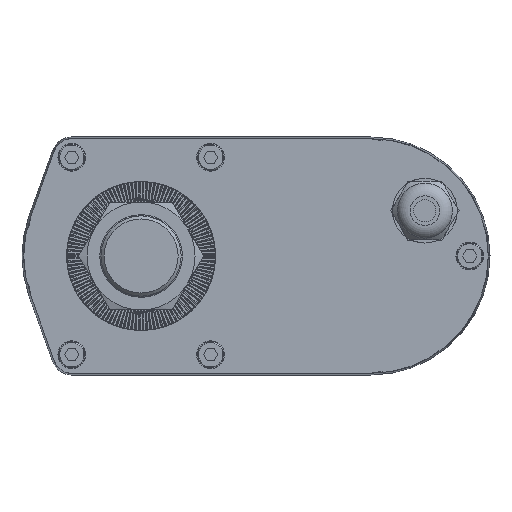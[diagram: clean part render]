
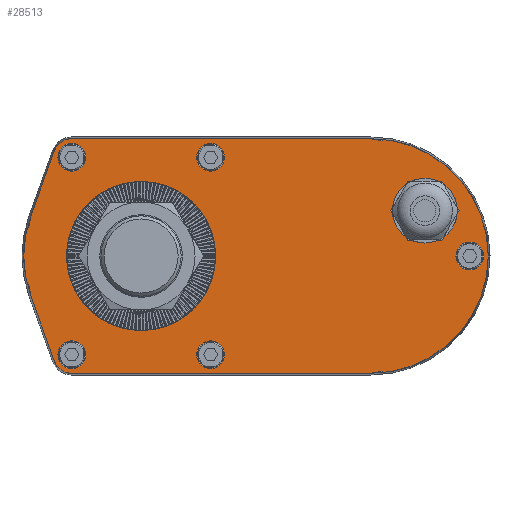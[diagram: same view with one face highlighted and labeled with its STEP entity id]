
A CAD part, left-side view. The second image highlights one B-rep face of the part: STEP entity #28513.
In plain terms, the highlighted planar face has unit normal (-1, 0, 0).
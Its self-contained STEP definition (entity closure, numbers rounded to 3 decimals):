
#829=LINE('',#40664,#2777);
#833=LINE('',#40676,#2781);
#837=LINE('',#40688,#2785);
#841=LINE('',#40700,#2789);
#2777=VECTOR('',#34313,1000.);
#2781=VECTOR('',#34325,1000.);
#2785=VECTOR('',#34337,1000.);
#2789=VECTOR('',#34349,1000.);
#4487=PLANE('',#30559);
#7024=ORIENTED_EDGE('',*,*,#12640,.F.);
#7025=ORIENTED_EDGE('',*,*,#11362,.F.);
#7026=ORIENTED_EDGE('',*,*,#12641,.T.);
#7027=ORIENTED_EDGE('',*,*,#12642,.T.);
#7028=ORIENTED_EDGE('',*,*,#12643,.T.);
#7029=ORIENTED_EDGE('',*,*,#12644,.T.);
#7030=ORIENTED_EDGE('',*,*,#12645,.T.);
#7031=ORIENTED_EDGE('',*,*,#12618,.F.);
#7032=ORIENTED_EDGE('',*,*,#12639,.F.);
#7033=ORIENTED_EDGE('',*,*,#12636,.F.);
#7034=ORIENTED_EDGE('',*,*,#12633,.F.);
#7035=ORIENTED_EDGE('',*,*,#12630,.F.);
#7036=ORIENTED_EDGE('',*,*,#12627,.F.);
#7037=ORIENTED_EDGE('',*,*,#12624,.F.);
#7038=ORIENTED_EDGE('',*,*,#12621,.F.);
#11362=EDGE_CURVE('',#14297,#14297,#16035,.F.);
#12618=EDGE_CURVE('',#15187,#15188,#829,.T.);
#12621=EDGE_CURVE('',#15188,#15190,#16528,.T.);
#12624=EDGE_CURVE('',#15190,#15192,#833,.T.);
#12627=EDGE_CURVE('',#15192,#15194,#16530,.T.);
#12630=EDGE_CURVE('',#15194,#15196,#837,.T.);
#12633=EDGE_CURVE('',#15196,#15198,#16532,.T.);
#12636=EDGE_CURVE('',#15198,#15200,#841,.T.);
#12639=EDGE_CURVE('',#15200,#15187,#16534,.T.);
#12640=EDGE_CURVE('',#15201,#15201,#16535,.F.);
#12641=EDGE_CURVE('',#15202,#15202,#16536,.T.);
#12642=EDGE_CURVE('',#15203,#15203,#16537,.T.);
#12643=EDGE_CURVE('',#15204,#15204,#16538,.T.);
#12644=EDGE_CURVE('',#15205,#15205,#16539,.T.);
#12645=EDGE_CURVE('',#15206,#15206,#16540,.T.);
#14297=VERTEX_POINT('',#38230);
#15187=VERTEX_POINT('',#40663);
#15188=VERTEX_POINT('',#40665);
#15190=VERTEX_POINT('',#40671);
#15192=VERTEX_POINT('',#40677);
#15194=VERTEX_POINT('',#40683);
#15196=VERTEX_POINT('',#40689);
#15198=VERTEX_POINT('',#40695);
#15200=VERTEX_POINT('',#40701);
#15201=VERTEX_POINT('',#40708);
#15202=VERTEX_POINT('',#40710);
#15203=VERTEX_POINT('',#40712);
#15204=VERTEX_POINT('',#40714);
#15205=VERTEX_POINT('',#40716);
#15206=VERTEX_POINT('',#40718);
#16035=CIRCLE('',#29560,24.1);
#16528=CIRCLE('',#30546,38.02);
#16530=CIRCLE('',#30550,6.);
#16532=CIRCLE('',#30554,38.02);
#16534=CIRCLE('',#30558,6.);
#16535=CIRCLE('',#30560,7.875);
#16536=CIRCLE('',#30561,4.5);
#16537=CIRCLE('',#30562,4.5);
#16538=CIRCLE('',#30563,4.5);
#16539=CIRCLE('',#30564,4.5);
#16540=CIRCLE('',#30565,4.5);
#16990=EDGE_LOOP('',(#7024));
#16991=EDGE_LOOP('',(#7025));
#16992=EDGE_LOOP('',(#7026));
#16993=EDGE_LOOP('',(#7027));
#16994=EDGE_LOOP('',(#7028));
#16995=EDGE_LOOP('',(#7029));
#16996=EDGE_LOOP('',(#7030));
#16997=EDGE_LOOP('',(#7031,#7032,#7033,#7034,#7035,#7036,#7037,#7038));
#18334=FACE_BOUND('',#16990,.T.);
#18335=FACE_BOUND('',#16991,.T.);
#18336=FACE_BOUND('',#16992,.T.);
#18337=FACE_BOUND('',#16993,.T.);
#18338=FACE_BOUND('',#16994,.T.);
#18339=FACE_BOUND('',#16995,.T.);
#18340=FACE_BOUND('',#16996,.T.);
#18341=FACE_BOUND('',#16997,.T.);
#28513=ADVANCED_FACE('',(#18334,#18335,#18336,#18337,#18338,#18339,#18340,
#18341),#4487,.F.);
#29560=AXIS2_PLACEMENT_3D('',#38229,#31833,#31834);
#30546=AXIS2_PLACEMENT_3D('',#40670,#34319,#34320);
#30550=AXIS2_PLACEMENT_3D('',#40682,#34331,#34332);
#30554=AXIS2_PLACEMENT_3D('',#40694,#34343,#34344);
#30558=AXIS2_PLACEMENT_3D('',#40705,#34355,#34356);
#30559=AXIS2_PLACEMENT_3D('',#40706,#34357,#34358);
#30560=AXIS2_PLACEMENT_3D('',#40707,#34359,#34360);
#30561=AXIS2_PLACEMENT_3D('',#40709,#34361,#34362);
#30562=AXIS2_PLACEMENT_3D('',#40711,#34363,#34364);
#30563=AXIS2_PLACEMENT_3D('',#40713,#34365,#34366);
#30564=AXIS2_PLACEMENT_3D('',#40715,#34367,#34368);
#30565=AXIS2_PLACEMENT_3D('',#40717,#34369,#34370);
#31833=DIRECTION('',(1.,0.,0.));
#31834=DIRECTION('',(0.,0.,-1.));
#34313=DIRECTION('',(0.,-1.,0.));
#34319=DIRECTION('',(1.,0.,0.));
#34320=DIRECTION('',(0.,0.,-1.));
#34325=DIRECTION('',(0.,1.,0.));
#34331=DIRECTION('',(1.,0.,0.));
#34332=DIRECTION('',(0.,0.,-1.));
#34337=DIRECTION('',(0.,0.34,0.94));
#34343=DIRECTION('',(1.,0.,0.));
#34344=DIRECTION('',(0.,0.,-1.));
#34349=DIRECTION('',(0.,-0.34,0.94));
#34355=DIRECTION('',(1.,0.,0.));
#34356=DIRECTION('',(0.,0.,-1.));
#34357=DIRECTION('',(1.,0.,0.));
#34358=DIRECTION('',(0.,0.,-1.));
#34359=DIRECTION('',(1.,0.,0.));
#34360=DIRECTION('',(0.,0.,-1.));
#34361=DIRECTION('',(1.,0.,0.));
#34362=DIRECTION('',(0.,0.,-1.));
#34363=DIRECTION('',(1.,0.,0.));
#34364=DIRECTION('',(0.,0.,-1.));
#34365=DIRECTION('',(1.,0.,0.));
#34366=DIRECTION('',(0.,0.,-1.));
#34367=DIRECTION('',(1.,0.,0.));
#34368=DIRECTION('',(0.,0.,-1.));
#34369=DIRECTION('',(1.,0.,0.));
#34370=DIRECTION('',(0.,0.,-1.));
#38229=CARTESIAN_POINT('',(0.,0.,0.));
#38230=CARTESIAN_POINT('',(0.,0.,-24.1));
#40663=CARTESIAN_POINT('',(0.,22.46,38.02));
#40664=CARTESIAN_POINT('',(0.,-74.5,38.02));
#40665=CARTESIAN_POINT('',(0.,-74.5,38.02));
#40670=CARTESIAN_POINT('',(0.,-74.5,0.));
#40671=CARTESIAN_POINT('',(0.,-74.5,-38.02));
#40676=CARTESIAN_POINT('',(0.,-74.5,-38.02));
#40677=CARTESIAN_POINT('',(0.,22.46,-38.02));
#40682=CARTESIAN_POINT('',(0.,22.46,-32.02));
#40683=CARTESIAN_POINT('',(0.,28.102,-34.063));
#40688=CARTESIAN_POINT('',(0.,27.112,-36.794));
#40689=CARTESIAN_POINT('',(0.,35.749,-12.945));
#40694=CARTESIAN_POINT('',(0.,0.,0.));
#40695=CARTESIAN_POINT('',(0.,35.749,12.945));
#40700=CARTESIAN_POINT('',(0.,27.112,36.794));
#40701=CARTESIAN_POINT('',(0.,28.102,34.063));
#40705=CARTESIAN_POINT('',(0.,22.46,32.02));
#40706=CARTESIAN_POINT('',(0.,-74.5,0.));
#40707=CARTESIAN_POINT('',(0.,-91.996,14.7));
#40708=CARTESIAN_POINT('',(0.,-91.996,6.825));
#40709=CARTESIAN_POINT('',(0.,22.46,-32.));
#40710=CARTESIAN_POINT('',(0.,22.46,-36.5));
#40711=CARTESIAN_POINT('',(0.,-22.54,32.));
#40712=CARTESIAN_POINT('',(0.,-22.54,27.5));
#40713=CARTESIAN_POINT('',(0.,-22.54,-32.));
#40714=CARTESIAN_POINT('',(0.,-22.54,-36.5));
#40715=CARTESIAN_POINT('',(0.,22.46,32.));
#40716=CARTESIAN_POINT('',(0.,22.46,27.5));
#40717=CARTESIAN_POINT('',(0.,-106.545,0.));
#40718=CARTESIAN_POINT('',(0.,-106.545,-4.5));
